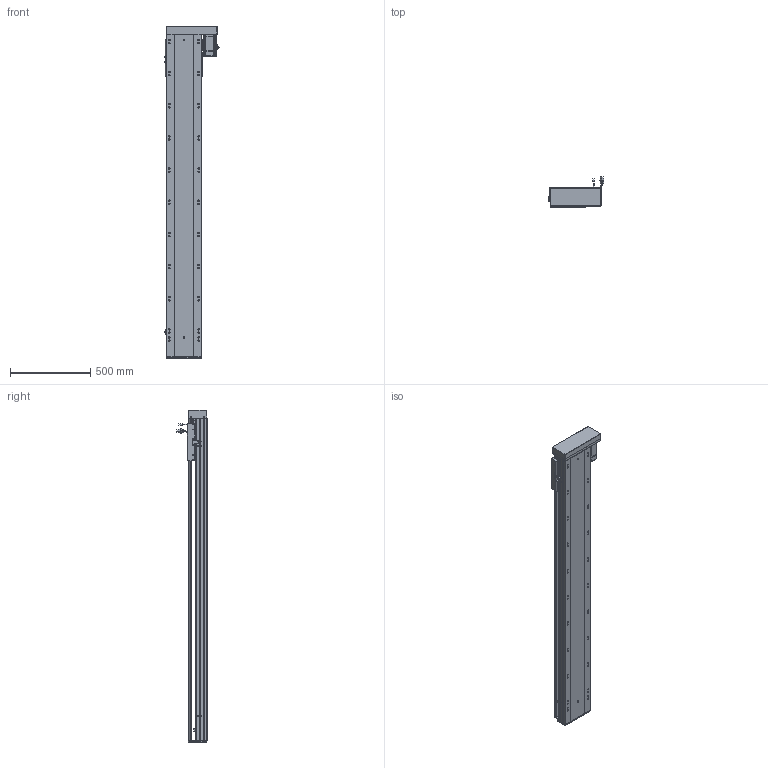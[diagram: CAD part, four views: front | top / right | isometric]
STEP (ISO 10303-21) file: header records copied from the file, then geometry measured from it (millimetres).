
FILE_DESCRIPTION (( 'STEP AP203' ), '1' );
FILE_NAME ('RY220-L2525-800-RK-邧嶺.SLDASM_1650.step', '2022-08-06T08:53:28', ( '' ), ( '' ), 'SwSTEP 2.0', 'SolidWorks 2016', '' );
FILE_SCHEMA (( 'CONFIG_CONTROL_DESIGN' ));
Length unit declared in the file: millimetre
Products named in the file (12): 怢湛750W_ECMA-CX0807ES; RY220-俋离672覜茼んえ; RY220酘衵殏萇儂欶; RY220-800-蛌殏奻裔啣_1650; 滅袉蝶18-10; RY220綴裔啣; RY220左右折电机安装板; RY220蛌殏菁釱-800-邧嶺_1650; 滅袉蝶18-15; RY220半封闭25-32螺母铝滑块; 覜茼ん672; RY220-L2525-800-RK-邧嶺.SLDASM_1650
Assembly tree (15 placements, depth 2):
  RY220-L2525-800-RK-邧嶺.SLDASM_1650
    RY220蛌殏菁釱-800-邧嶺_1650
    RY220-800-蛌殏奻裔啣_1650
    怢湛750W_ECMA-CX0807ES
    滅袉蝶18-10  x2
    RY220-俋离672覜茼んえ
    覜茼ん672  x3
    RY220綴裔啣
    RY220半封闭25-32螺母铝滑块
    滅袉蝶18-15  x2
    RY220左右折电机安装板
    RY220酘衵殏萇儂欶
Bounding box: 347.44 x 187.27 x 2064 mm (x, y, z)
Volume: 15939925.7 mm3; surface area: 4813388.4 mm2
Topology: 16 solids, 16 shells, 2319 faces, 6408 edges, 4027 vertices
Faces by surface type: cylinder 1075, plane 904, cone 270, bspline 44, sphere 16, torus 10
Entity records: 76675 total; most frequent: CARTESIAN_POINT 22083, ORIENTED_EDGE 11304, DIRECTION 10744, EDGE_CURVE 5652, AXIS2_PLACEMENT_3D 3813, VERTEX_POINT 3683, VECTOR 3118, LINE 3118
